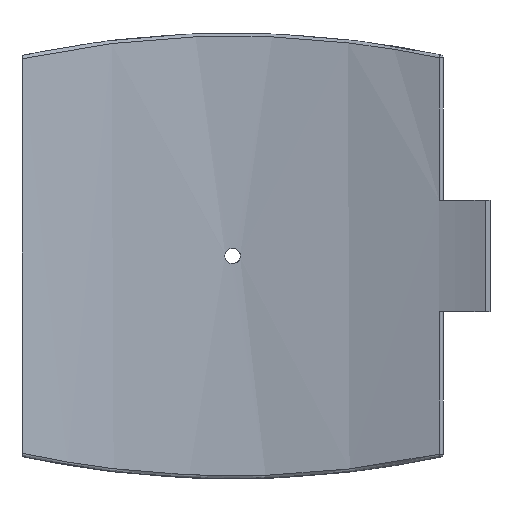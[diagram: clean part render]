
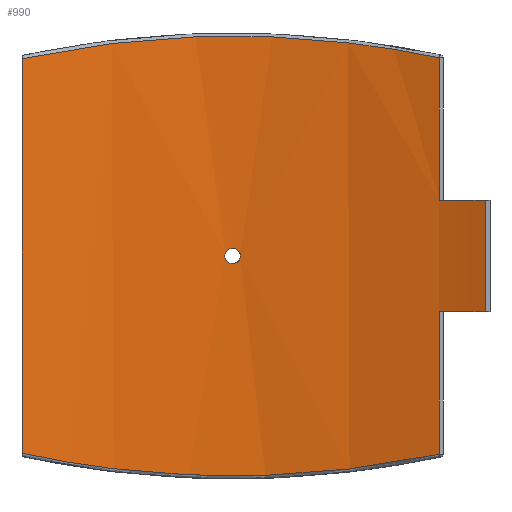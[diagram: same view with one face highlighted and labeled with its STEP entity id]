
A CAD part, front view. The second image highlights one B-rep face of the part: STEP entity #990.
In plain terms, the highlighted cylindrical face has radius 400 mm (diameter 800 mm), a partial arc.
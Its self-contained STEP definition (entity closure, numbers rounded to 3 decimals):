
#55=FACE_BOUND('',#331,.T.);
#101=B_SPLINE_CURVE_WITH_KNOTS('',3,(#2022,#2023,#2024,#2025,#2026,#2027,
#2028),.UNSPECIFIED.,.F.,.F.,(4,1,1,1,4),(-32.756,-24.46,
-16.165,-7.869,-3.721),.UNSPECIFIED.);
#102=B_SPLINE_CURVE_WITH_KNOTS('',3,(#2037,#2038,#2039,#2040,#2041,#2042,
#2043,#2044),.UNSPECIFIED.,.F.,.F.,(4,1,1,1,1,4),(-29.756,-21.461,
-13.165,-9.017,-4.869,-0.721),
 .UNSPECIFIED.);
#103=B_SPLINE_CURVE_WITH_KNOTS('',3,(#2047,#2048,#2049,#2050,#2051,#2052,
#2053,#2054,#2055,#2056),.UNSPECIFIED.,.F.,.F.,(4,2,2,2,4),(0.,0.196,
0.392,0.588,0.784),.UNSPECIFIED.);
#104=B_SPLINE_CURVE_WITH_KNOTS('',3,(#2057,#2058,#2059,#2060,#2061,#2062,
#2063,#2064,#2065,#2066,#2067,#2068,#2069,#2070,#2071,#2072,#2073,#2074,
#2075,#2076,#2077,#2078,#2079,#2080,#2081,#2082),.UNSPECIFIED.,.F.,.F.,
(4,2,2,2,2,2,2,2,2,2,2,2,4),(0.784,0.979,1.175,
1.371,1.567,1.763,1.959,2.155,
2.351,2.546,2.742,2.938,3.134),
 .UNSPECIFIED.);
#125=LINE('',#1483,#172);
#136=LINE('',#1754,#183);
#143=LINE('',#2033,#190);
#144=LINE('',#2036,#191);
#172=VECTOR('',#1188,10.);
#183=VECTOR('',#1227,10.);
#190=VECTOR('',#1264,10.);
#191=VECTOR('',#1267,10.);
#228=CYLINDRICAL_SURFACE('',#1083,400.);
#268=FACE_OUTER_BOUND('',#330,.T.);
#330=EDGE_LOOP('',(#775,#776,#777,#778,#779,#780,#781,#782));
#331=EDGE_LOOP('',(#783,#784));
#413=CIRCLE('',#1084,400.);
#414=CIRCLE('',#1085,400.);
#466=VERTEX_POINT('',#1474);
#469=VERTEX_POINT('',#1481);
#489=VERTEX_POINT('',#1747);
#492=VERTEX_POINT('',#1752);
#505=VERTEX_POINT('',#2011);
#506=VERTEX_POINT('',#2030);
#507=VERTEX_POINT('',#2032);
#508=VERTEX_POINT('',#2035);
#509=VERTEX_POINT('',#2045);
#510=VERTEX_POINT('',#2046);
#561=EDGE_CURVE('',#469,#466,#125,.T.);
#591=EDGE_CURVE('',#492,#489,#136,.T.);
#614=EDGE_CURVE('',#505,#492,#101,.T.);
#615=EDGE_CURVE('',#506,#469,#413,.T.);
#616=EDGE_CURVE('',#506,#507,#143,.T.);
#617=EDGE_CURVE('',#489,#507,#414,.T.);
#618=EDGE_CURVE('',#508,#505,#144,.T.);
#619=EDGE_CURVE('',#466,#508,#102,.T.);
#620=EDGE_CURVE('',#509,#510,#103,.T.);
#621=EDGE_CURVE('',#510,#509,#104,.T.);
#775=ORIENTED_EDGE('',*,*,#615,.F.);
#776=ORIENTED_EDGE('',*,*,#616,.T.);
#777=ORIENTED_EDGE('',*,*,#617,.F.);
#778=ORIENTED_EDGE('',*,*,#591,.F.);
#779=ORIENTED_EDGE('',*,*,#614,.F.);
#780=ORIENTED_EDGE('',*,*,#618,.F.);
#781=ORIENTED_EDGE('',*,*,#619,.F.);
#782=ORIENTED_EDGE('',*,*,#561,.F.);
#783=ORIENTED_EDGE('',*,*,#620,.T.);
#784=ORIENTED_EDGE('',*,*,#621,.T.);
#990=ADVANCED_FACE('',(#268,#55),#228,.F.);
#1083=AXIS2_PLACEMENT_3D('',#2029,#1260,#1261);
#1084=AXIS2_PLACEMENT_3D('',#2031,#1262,#1263);
#1085=AXIS2_PLACEMENT_3D('',#2034,#1265,#1266);
#1188=DIRECTION('',(0.,0.,-1.));
#1227=DIRECTION('',(0.,0.,-1.));
#1260=DIRECTION('center_axis',(0.,0.,1.));
#1261=DIRECTION('ref_axis',(-1.,0.,0.));
#1262=DIRECTION('center_axis',(0.,0.,1.));
#1263=DIRECTION('ref_axis',(-0.425,-0.905,0.));
#1264=DIRECTION('',(0.,0.,1.));
#1265=DIRECTION('center_axis',(0.,0.,-1.));
#1266=DIRECTION('ref_axis',(-0.425,-0.905,0.));
#1267=DIRECTION('',(0.,0.,1.));
#1474=CARTESIAN_POINT('',(139.055,375.052,-133.381));
#1481=CARTESIAN_POINT('',(139.055,375.052,-37.5));
#1483=CARTESIAN_POINT('',(139.055,375.052,0.));
#1747=CARTESIAN_POINT('',(139.055,375.052,37.5));
#1752=CARTESIAN_POINT('',(139.055,375.052,133.381));
#1754=CARTESIAN_POINT('',(139.055,375.052,0.));
#2011=CARTESIAN_POINT('',(-141.75,374.041,132.802));
#2022=CARTESIAN_POINT('Ctrl Pts',(-141.75,374.041,132.802));
#2023=CARTESIAN_POINT('Ctrl Pts',(-116.53,383.599,138.272));
#2024=CARTESIAN_POINT('Ctrl Pts',(-63.637,397.78,146.655));
#2025=CARTESIAN_POINT('Ctrl Pts',(19.35,402.402,149.446));
#2026=CARTESIAN_POINT('Ctrl Pts',(87.56,391.965,143.184));
#2027=CARTESIAN_POINT('Ctrl Pts',(126.401,379.743,136.071));
#2028=CARTESIAN_POINT('Ctrl Pts',(139.055,375.052,133.381));
#2029=CARTESIAN_POINT('Origin',(0.,0.,0.));
#2030=CARTESIAN_POINT('',(169.938,362.107,-37.5));
#2031=CARTESIAN_POINT('Origin',(0.,0.,
-37.5));
#2032=CARTESIAN_POINT('',(169.938,362.107,37.5));
#2033=CARTESIAN_POINT('',(169.938,362.107,0.));
#2034=CARTESIAN_POINT('Origin',(0.,0.,
37.5));
#2035=CARTESIAN_POINT('',(-141.75,374.041,-132.802));
#2036=CARTESIAN_POINT('',(-141.75,374.041,0.));
#2037=CARTESIAN_POINT('Ctrl Pts',(139.055,375.052,-133.381));
#2038=CARTESIAN_POINT('Ctrl Pts',(113.746,384.435,-138.761));
#2039=CARTESIAN_POINT('Ctrl Pts',(60.72,398.239,-146.932));
#2040=CARTESIAN_POINT('Ctrl Pts',(-8.469,401.577,-148.947));
#2041=CARTESIAN_POINT('Ctrl Pts',(-63.175,395.69,-145.423));
#2042=CARTESIAN_POINT('Ctrl Pts',(-103.319,387.148,-140.374));
#2043=CARTESIAN_POINT('Ctrl Pts',(-129.14,378.82,-135.537));
#2044=CARTESIAN_POINT('Ctrl Pts',(-141.75,374.041,-132.802));
#2045=CARTESIAN_POINT('',(5.2,399.966,0.));
#2046=CARTESIAN_POINT('',(0.,400.,-5.2));
#2047=CARTESIAN_POINT('Ctrl Pts',(5.2,399.966,0.));
#2048=CARTESIAN_POINT('Ctrl Pts',(5.2,399.966,-0.653));
#2049=CARTESIAN_POINT('Ctrl Pts',(5.07,399.968,-1.349));
#2050=CARTESIAN_POINT('Ctrl Pts',(4.539,399.974,-2.631));
#2051=CARTESIAN_POINT('Ctrl Pts',(4.139,399.979,-3.215));
#2052=CARTESIAN_POINT('Ctrl Pts',(3.215,399.987,-4.139));
#2053=CARTESIAN_POINT('Ctrl Pts',(2.631,399.992,-4.539));
#2054=CARTESIAN_POINT('Ctrl Pts',(1.349,399.998,-5.07));
#2055=CARTESIAN_POINT('Ctrl Pts',(0.653,400.,-5.2));
#2056=CARTESIAN_POINT('Ctrl Pts',(0.,400.,-5.2));
#2057=CARTESIAN_POINT('Ctrl Pts',(0.,400.,-5.2));
#2058=CARTESIAN_POINT('Ctrl Pts',(-0.653,400.,-5.2));
#2059=CARTESIAN_POINT('Ctrl Pts',(-1.349,399.998,-5.07));
#2060=CARTESIAN_POINT('Ctrl Pts',(-2.631,399.992,-4.539));
#2061=CARTESIAN_POINT('Ctrl Pts',(-3.215,399.987,-4.139));
#2062=CARTESIAN_POINT('Ctrl Pts',(-4.139,399.979,-3.215));
#2063=CARTESIAN_POINT('Ctrl Pts',(-4.539,399.974,-2.631));
#2064=CARTESIAN_POINT('Ctrl Pts',(-5.07,399.968,-1.349));
#2065=CARTESIAN_POINT('Ctrl Pts',(-5.2,399.966,-0.653));
#2066=CARTESIAN_POINT('Ctrl Pts',(-5.2,399.966,0.653));
#2067=CARTESIAN_POINT('Ctrl Pts',(-5.07,399.968,1.349));
#2068=CARTESIAN_POINT('Ctrl Pts',(-4.539,399.974,2.631));
#2069=CARTESIAN_POINT('Ctrl Pts',(-4.139,399.979,3.215));
#2070=CARTESIAN_POINT('Ctrl Pts',(-3.215,399.987,4.139));
#2071=CARTESIAN_POINT('Ctrl Pts',(-2.631,399.992,4.539));
#2072=CARTESIAN_POINT('Ctrl Pts',(-1.349,399.998,5.07));
#2073=CARTESIAN_POINT('Ctrl Pts',(-0.653,400.,5.2));
#2074=CARTESIAN_POINT('Ctrl Pts',(0.653,400.,5.2));
#2075=CARTESIAN_POINT('Ctrl Pts',(1.349,399.998,5.07));
#2076=CARTESIAN_POINT('Ctrl Pts',(2.631,399.992,4.539));
#2077=CARTESIAN_POINT('Ctrl Pts',(3.215,399.987,4.139));
#2078=CARTESIAN_POINT('Ctrl Pts',(4.139,399.979,3.215));
#2079=CARTESIAN_POINT('Ctrl Pts',(4.539,399.974,2.631));
#2080=CARTESIAN_POINT('Ctrl Pts',(5.07,399.968,1.349));
#2081=CARTESIAN_POINT('Ctrl Pts',(5.2,399.966,0.653));
#2082=CARTESIAN_POINT('Ctrl Pts',(5.2,399.966,0.));
